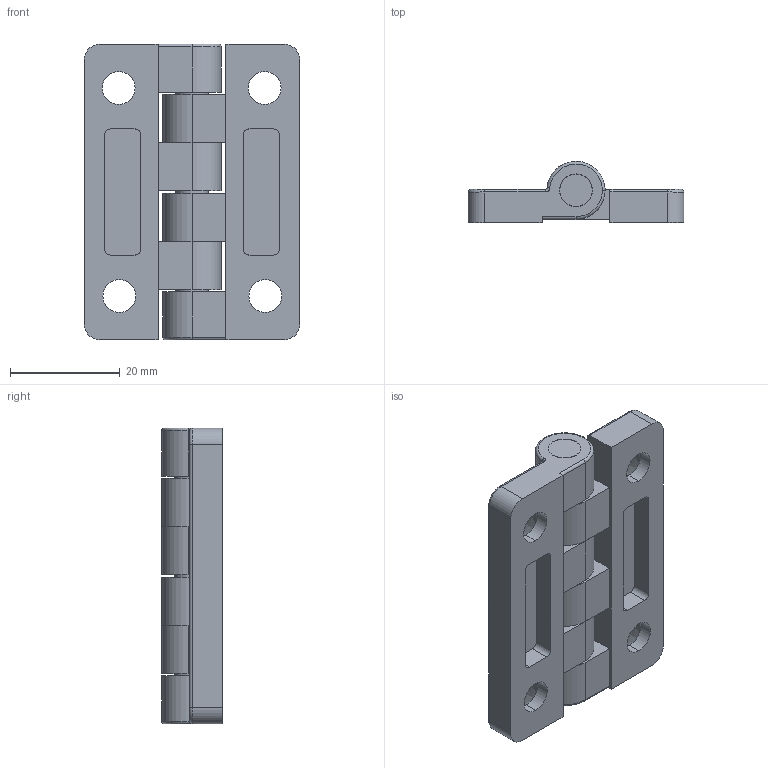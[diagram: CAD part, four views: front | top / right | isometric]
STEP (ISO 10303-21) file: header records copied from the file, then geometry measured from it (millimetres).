
FILE_DESCRIPTION (( 'STEP AP203' ), '1' );
FILE_NAME ('XG02-035-2.STEP', '2023-12-07T07:23:37', ( '' ), ( '' ), 'SwSTEP 2.0', 'SolidWorks 2020', '' );
FILE_SCHEMA (( 'CONFIG_CONTROL_DESIGN' ));
Length unit declared in the file: millimetre
Products named in the file (3): HL015-1 - B; XG02-035-2; 麥謂1
Assembly tree (3 placements, depth 2):
  XG02-035-2
    麥謂1  x2
    HL015-1 - B
Bounding box: 39.4 x 11.09 x 54 mm (x, y, z)
Volume: 11704.8 mm3; surface area: 9311 mm2
Topology: 3 solids, 3 shells, 118 faces, 306 edges, 196 vertices
Faces by surface type: cylinder 60, plane 40, torus 10, cone 8
Entity records: 2224 total; most frequent: DIRECTION 363, CARTESIAN_POINT 323, ORIENTED_EDGE 312, EDGE_CURVE 156, AXIS2_PLACEMENT_3D 140, VERTEX_POINT 100, VECTOR 83, LINE 83
